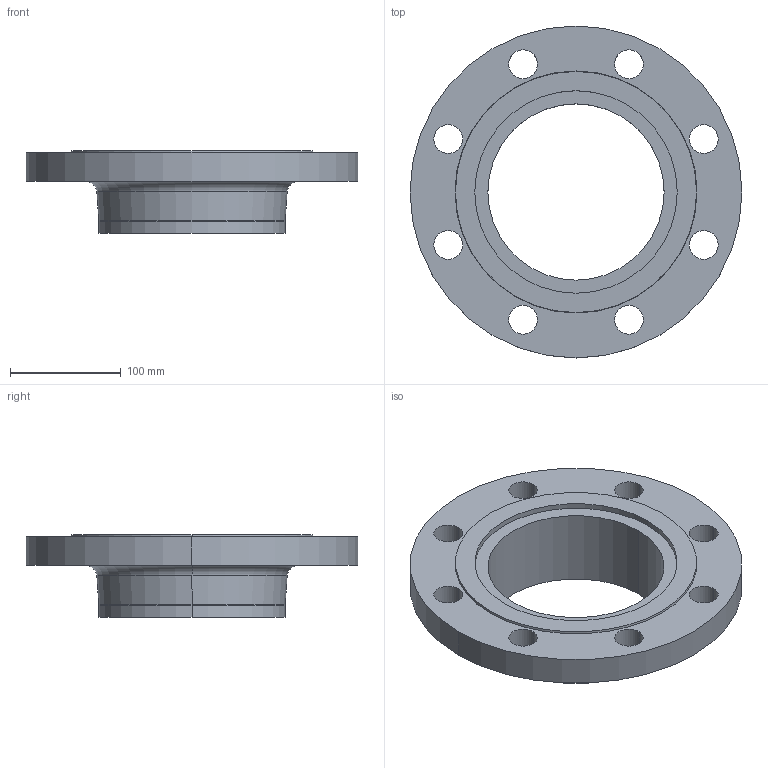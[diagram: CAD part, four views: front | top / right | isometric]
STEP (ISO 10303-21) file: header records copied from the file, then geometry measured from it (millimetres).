
FILE_DESCRIPTION (( 'STEP AP214' ), '1' );
FILE_NAME ('PN40 DN150 Type 11 - Type G Face.STEP', '2019-01-05T00:10:05', ( '' ), ( '' ), 'SwSTEP 2.0', 'SolidWorks 2019', '' );
FILE_SCHEMA (( 'AUTOMOTIVE_DESIGN' ));
Length unit declared in the file: millimetre
Products named in the file (1): PN40 DN150 Type 11 - Type G Face
Bounding box: 300 x 300 x 75 mm (x, y, z)
Volume: 1355312.3 mm3; surface area: 195451.1 mm2
Topology: 1 solids, 1 shells, 37 faces, 90 edges, 58 vertices
Faces by surface type: cylinder 24, plane 5, torus 4, cone 4
Entity records: 1188 total; most frequent: DIRECTION 228, CARTESIAN_POINT 186, ORIENTED_EDGE 180, AXIS2_PLACEMENT_3D 100, EDGE_CURVE 90, CIRCLE 62, VERTEX_POINT 58, EDGE_LOOP 58
